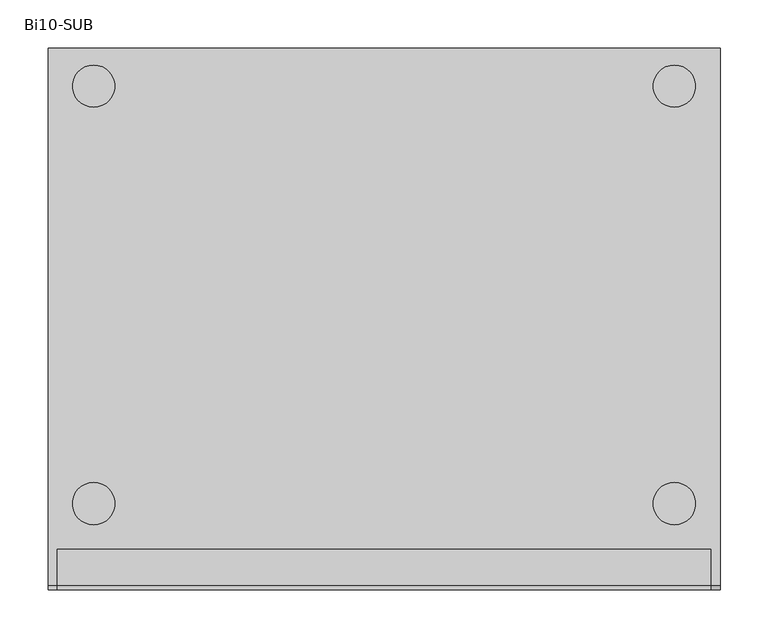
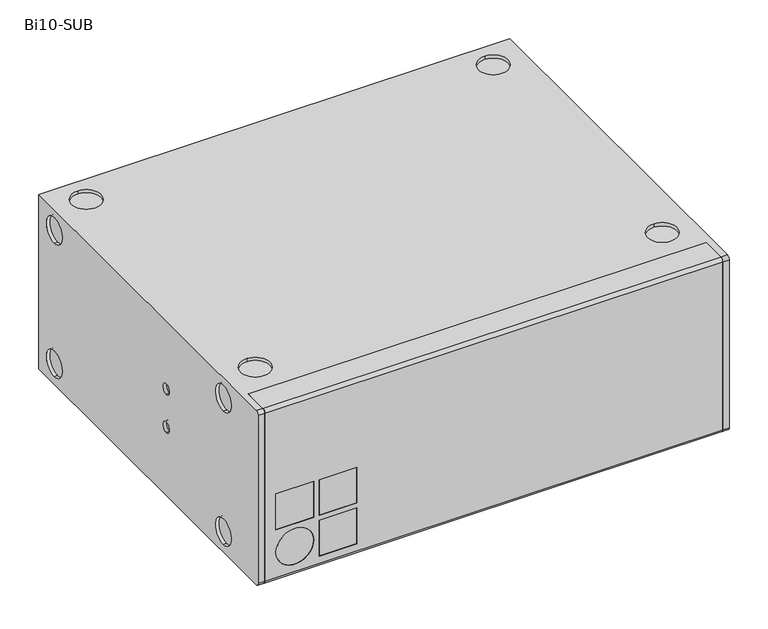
"""IFC4 building model written with IfcOpenShell, lengths in millimetres: proxy geometry, d&b Bi10-SUB : Bi10-SUB."""

from ifc_helpers import new_model, si_unit, point, frame, frame_2d, origin, origin_with_axes, place, context, project, spatial, polyline, circle_curve, trimmed, segment, composite_curve, outline, extrude, source, transform, mapped, element, save
from ifc_brep_helpers import plane_surface, cylinder_surface, revolved_surface, advanced_brep


def bi10_sub_41919346(model_context):
    return source(origin(), model_context, "Body", "SolidModel", [
        advanced_brep(
        [(2840.2, -60.7494027, 10.0), (2840.2, -55.7494027, 5.0), (2840.2, -18.2494027, 5.0), (2840.2, -18.2494027, 10.0), (2840.2, -55.7494027, 10.0), (2840.2, -55.7494027, 274.0), (2840.2, -18.2494027, 274.0), (2840.2, -18.2494027, 279.0), (2840.2, -55.7494027, 279.0), (2840.2, -60.7494027, 274.0), (2159.8, -60.7494027, 10.0), (2159.8, -60.7494027, 274.0), (2159.8, -55.7494027, 279.0), (2159.8, -18.2494027, 279.0), (2159.8, -18.2494027, 274.0), (2159.8, -55.7494027, 274.0), (2159.8, -55.7494027, 10.0), (2159.8, -18.2494027, 10.0), (2159.8, -18.2494027, 5.0), (2159.8, -55.7494027, 5.0), (2232.3, -55.7494027, 85.5), (2232.3, -55.7494027, 141.5), (2176.3, -55.7494027, 141.5), (2176.3, -55.7494027, 85.5), (2296.3, -55.7494027, 85.5), (2296.3, -55.7494027, 141.5), (2240.3, -55.7494027, 141.5), (2240.3, -55.7494027, 85.5), (2296.3, -55.7494027, 21.5), (2296.3, -55.7494027, 77.5), (2240.3, -55.7494027, 77.5), (2240.3, -55.7494027, 21.5), (2176.3, -55.7494027, 49.5), (2232.3, -55.7494027, 49.5), (2232.3, -60.7494027, 141.5), (2232.3, -60.7494027, 85.5), (2176.3, -60.7494027, 85.5), (2176.3, -60.7494027, 141.5), (2296.3, -60.7494027, 141.5), (2296.3, -60.7494027, 85.5), (2240.3, -60.7494027, 85.5), (2240.3, -60.7494027, 141.5), (2296.3, -60.7494027, 77.5), (2296.3, -60.7494027, 21.5), (2240.3, -60.7494027, 21.5), (2240.3, -60.7494027, 77.5), (2232.3, -60.7494027, 49.5), (2176.3, -60.7494027, 49.5)],
        [
            (0, 1, circle_curve(frame((2840.2, -55.7494027, 10.0), z_axis=(1.0, 0.0, 0.0), x_axis=(0.0, 1.0, 0.0)), 5.0)),
            (1, 2),
            (2, 3),
            (3, 4),
            (4, 5),
            (5, 6),
            (6, 7),
            (7, 8),
            (8, 9, circle_curve(frame((2840.2, -55.7494027, 274.0), z_axis=(1.0, 0.0, 0.0), x_axis=(0.0, 1.0, 0.0)), 5.0)),
            (9, 0),
            (10, 11),
            (11, 12, circle_curve(frame((2159.8, -55.7494027, 274.0), z_axis=(-1.0, 0.0, 0.0), x_axis=(0.0, 1.0, 0.0)), 5.0)),
            (12, 13),
            (13, 14),
            (14, 15),
            (15, 16),
            (16, 17),
            (17, 18),
            (18, 19),
            (19, 10, circle_curve(frame((2159.8, -55.7494027, 10.0), z_axis=(-1.0, 0.0, 0.0), x_axis=(0.0, 1.0, 0.0)), 5.0)),
            (4, 16),
            (15, 5),
            (20, 21),
            (21, 22),
            (22, 23),
            (23, 20),
            (24, 25),
            (25, 26),
            (26, 27),
            (27, 24),
            (28, 29),
            (29, 30),
            (30, 31),
            (31, 28),
            (32, 33, circle_curve(frame((2204.3, -55.7494027, 49.5), z_axis=(0.0, -1.0, 0.0), x_axis=(-1.0, 0.0, 0.0)), 28.0)),
            (33, 32, circle_curve(frame((2204.3, -55.7494027, 49.5), z_axis=(0.0, -1.0, 0.0), x_axis=(-1.0, 0.0, 0.0)), 28.0)),
            (14, 6),
            (9, 11),
            (10, 0),
            (34, 35),
            (35, 36),
            (36, 37),
            (37, 34),
            (38, 39),
            (39, 40),
            (40, 41),
            (41, 38),
            (42, 43),
            (43, 44),
            (44, 45),
            (45, 42),
            (46, 47, circle_curve(frame((2204.3, -60.7494027, 49.5), z_axis=(0.0, 1.0, 0.0), x_axis=(-1.0, 0.0, 0.0)), 28.0)),
            (47, 46, circle_curve(frame((2204.3, -60.7494027, 49.5), z_axis=(0.0, 1.0, 0.0), x_axis=(-1.0, 0.0, 0.0)), 28.0)),
            (34, 21),
            (20, 35),
            (23, 36),
            (37, 22),
            (38, 25),
            (24, 39),
            (27, 40),
            (26, 41),
            (42, 29),
            (28, 43),
            (31, 44),
            (30, 45),
            (46, 33),
            (32, 47),
            (3, 17),
            (13, 7),
            (12, 8),
            (19, 1),
            (18, 2),
        ],
        [
            plane_surface(frame((2840.2, -50.7494027, 10.0), z_axis=(1.0, 0.0, 0.0), x_axis=(0.0, 0.0, 1.0))),
            plane_surface(frame((2159.8, -50.7494027, 10.0), z_axis=(-1.0, 0.0, 0.0), x_axis=(0.0, 0.0, -1.0))),
            plane_surface(frame((2840.2, -55.7494027, 10.0), z_axis=(0.0, 1.0, 0.0), x_axis=(-1.0, 0.0, 0.0))),
            plane_surface(frame((2840.2, -55.7494027, 274.0), z_axis=(0.0, 0.0, -1.0), x_axis=(-1.0, 0.0, 0.0))),
            plane_surface(frame((2840.2, -60.7494027, 274.0), z_axis=(0.0, -1.0, 0.0), x_axis=(-1.0, 0.0, 0.0))),
            plane_surface(frame((2232.3, -50.7494027, 141.5), z_axis=(-1.0, 0.0, 0.0), x_axis=(0.0, -1.0, 0.0))),
            plane_surface(frame((2232.3, -50.7494027, 85.5), z_axis=(0.0, 0.0, 1.0), x_axis=(0.0, -1.0, 0.0))),
            plane_surface(frame((2176.3, -50.7494027, 141.5), z_axis=(0.0, 0.0, -1.0), x_axis=(0.0, -1.0, 0.0))),
            plane_surface(frame((2296.3, -50.7494027, 141.5), z_axis=(-1.0, 0.0, 0.0), x_axis=(0.0, -1.0, 0.0))),
            plane_surface(frame((2296.3, -50.7494027, 85.5), z_axis=(0.0, 0.0, 1.0), x_axis=(0.0, -1.0, 0.0))),
            plane_surface(frame((2240.3, -50.7494027, 85.5), z_axis=(1.0, 0.0, 0.0), x_axis=(0.0, -1.0, 0.0))),
            plane_surface(frame((2240.3, -50.7494027, 141.5), z_axis=(0.0, 0.0, -1.0), x_axis=(0.0, -1.0, 0.0))),
            plane_surface(frame((2296.3, -50.7494027, 77.5), z_axis=(-1.0, 0.0, 0.0), x_axis=(0.0, -1.0, 0.0))),
            plane_surface(frame((2296.3, -50.7494027, 21.5), z_axis=(0.0, 0.0, 1.0), x_axis=(0.0, -1.0, 0.0))),
            plane_surface(frame((2240.3, -50.7494027, 21.5), z_axis=(1.0, 0.0, 0.0), x_axis=(0.0, -1.0, 0.0))),
            plane_surface(frame((2240.3, -50.7494027, 77.5), z_axis=(0.0, 0.0, -1.0), x_axis=(0.0, -1.0, 0.0))),
            revolved_surface(polyline([(2176.3, -55.7494027, 49.5), (2176.3, -60.7494027, 49.5)]), (2204.3, -60.7494027, 49.5), (0.0, 1.0, 0.0)),
            plane_surface(frame((2840.2, -18.2494027, 10.0), z_axis=(0.0, 0.0, 1.0), x_axis=(-1.0, 0.0, 0.0))),
            plane_surface(frame((2840.2, -18.2494027, 274.0), z_axis=(0.0, 1.0, 0.0), x_axis=(-1.0, 0.0, 0.0))),
            plane_surface(frame((2840.2, -18.2494027, 279.0), z_axis=(0.0, 0.0, 1.0), x_axis=(-1.0, 0.0, 0.0))),
            cylinder_surface(frame((2159.8, -55.7494027, 10.0), z_axis=(1.0, 0.0, 0.0), x_axis=(0.0, 1.0, 0.0)), 5.0),
            plane_surface(frame((2840.2, -55.7494027, 5.0), z_axis=(0.0, 0.0, -1.0), x_axis=(-1.0, 0.0, 0.0))),
            plane_surface(frame((2840.2, -18.2494027, 5.0), z_axis=(0.0, 1.0, 0.0), x_axis=(-1.0, 0.0, 0.0))),
            cylinder_surface(frame((2159.8, -55.7494027, 274.0), z_axis=(1.0, 0.0, 0.0), x_axis=(0.0, 1.0, 0.0)), 5.0),
            plane_surface(frame((2176.3, -50.7494027, 85.5), z_axis=(1.0, 0.0, 0.0), x_axis=(0.0, -1.0, 0.0))),
        ],
        [
            (0, [[1, 2, 3, 4, 5, 6, 7, 8, 9, 10]]),
            (1, [[11, 12, 13, 14, 15, 16, 17, 18, 19, 20]]),
            (2, [[-5, 21, -16, 22], [23, 24, 25, 26], [27, 28, 29, 30], [31, 32, 33, 34], [35, 36]]),
            (3, [[-6, -22, -15, 37]]),
            (4, [[-10, 38, -11, 39], [40, 41, 42, 43], [44, 45, 46, 47], [48, 49, 50, 51], [52, 53]]),
            (5, [[54, -23, 55, -40]]),
            (6, [[-55, -26, 56, -41]]),
            (7, [[-54, -43, 57, -24]]),
            (8, [[58, -27, 59, -44]]),
            (9, [[-59, -30, 60, -45]]),
            (10, [[-60, -29, 61, -46]]),
            (11, [[-58, -47, -61, -28]]),
            (12, [[62, -31, 63, -48]]),
            (13, [[-63, -34, 64, -49]]),
            (14, [[-64, -33, 65, -50]]),
            (15, [[-62, -51, -65, -32]]),
            (16, [[66, -35, 67, -52]]),
            (16, [[-66, -53, -67, -36]]),
            (17, [[-4, 68, -17, -21]]),
            (18, [[-7, -37, -14, 69]]),
            (19, [[-8, -69, -13, 70]]),
            (20, [[-1, -39, -20, 71]]),
            (21, [[-2, -71, -19, 72]]),
            (22, [[-3, -72, -18, -68]]),
            (23, [[-9, -70, -12, -38]]),
            (24, [[-57, -42, -56, -25]]),
        ],
    ),
        advanced_brep(
        [(2850.0, 504.2505973, 279.0), (2150.0, 504.2505973, 279.0), (2150.0, -55.7494027, 279.0), (2159.8, -55.7494027, 279.0), (2159.8, -18.2494027, 279.0), (2840.2, -18.2494027, 279.0), (2840.2, -55.7494027, 279.0), (2850.0, -55.7494027, 279.0), (2197.5, 7.2505973, 279.0), (2197.5, 51.2505973, 279.0), (2197.5, 442.4754449, 279.0), (2197.5, 486.4754449, 279.0), (2802.5, 7.2505973, 279.0), (2802.5, 51.2505973, 279.0), (2802.5, 442.4754449, 279.0), (2802.5, 486.4754449, 279.0), (2150.0, 504.2505973, 5.0), (2150.0, -55.7494027, 5.0), (2150.0, -60.7494027, 10.0), (2150.0, -60.7494027, 274.0), (2150.0, 464.2505973, 227.0), (2150.0, 464.2505973, 267.0), (2150.0, 464.2505973, 17.0), (2150.0, 464.2505973, 57.0), (2150.0, 29.0257497, 17.0), (2150.0, 29.0257497, 57.0), (2150.0, 29.0257497, 227.0), (2150.0, 29.0257497, 267.0), (2150.0, 176.2505973, 163.9), (2150.0, 176.2505973, 180.1), (2150.0, 176.2505973, 103.9), (2150.0, 176.2505973, 120.1), (2159.8, -18.2494027, 5.0), (2840.2, -18.2494027, 5.0), (2159.8, -60.7494027, 10.0), (2159.8, -60.7494027, 274.0), (2188.0, 499.2505973, 33.5), (2178.0, 499.2505973, 43.5), (2178.0, 499.2505973, 144.5), (2188.0, 499.2505973, 154.5), (2232.0, 499.2505973, 154.5), (2242.0, 499.2505973, 144.5), (2242.0, 499.2505973, 43.5), (2232.0, 499.2505973, 33.5), (2232.0, 499.2505973, 43.5), (2232.0, 499.2505973, 144.5), (2188.0, 499.2505973, 144.5), (2188.0, 499.2505973, 43.5), (2159.8, -55.7494027, 5.0), (2850.0, 504.2505973, 5.0), (2850.0, -55.7494027, 5.0), (2840.2, -55.7494027, 5.0), (2178.0, 504.2505973, 43.5), (2188.0, 504.2505973, 33.5), (2232.0, 504.2505973, 33.5), (2242.0, 504.2505973, 43.5), (2242.0, 504.2505973, 144.5), (2232.0, 504.2505973, 154.5), (2188.0, 504.2505973, 154.5), (2178.0, 504.2505973, 144.5), (2197.5, 51.2505973, 274.0), (2197.5, 7.2505973, 274.0), (2197.5, 486.4754449, 274.0), (2197.5, 442.4754449, 274.0), (2840.2, -60.7494027, 10.0), (2840.2, -60.7494027, 274.0), (2850.0, -60.7494027, 274.0), (2850.0, -60.7494027, 10.0), (2850.0, 176.2505973, 163.9), (2850.0, 176.2505973, 180.1), (2850.0, 176.2505973, 103.9), (2850.0, 176.2505973, 120.1), (2802.5, 7.2505973, 274.0), (2802.5, 51.2505973, 274.0), (2802.5, 442.4754449, 274.0), (2802.5, 486.4754449, 274.0), (2155.0, 464.2505973, 227.0), (2155.0, 464.2505973, 267.0), (2155.0, 464.2505973, 17.0), (2155.0, 464.2505973, 57.0), (2155.0, 29.0257497, 17.0), (2155.0, 29.0257497, 57.0), (2155.0, 29.0257497, 227.0), (2155.0, 29.0257497, 267.0), (2155.0, 176.2505973, 180.1), (2155.0, 176.2505973, 163.9), (2155.0, 176.2505973, 120.1), (2155.0, 176.2505973, 103.9), (2845.0, 176.2505973, 180.1), (2845.0, 176.2505973, 163.9), (2845.0, 176.2505973, 120.1), (2845.0, 176.2505973, 103.9), (2232.0, 482.3421979, 43.5), (2232.0, 447.6966201, 78.1455778), (2232.0, 465.476234, 144.5), (2188.0, 465.476234, 144.5), (2188.0, 447.6966201, 78.1455778), (2188.0, 482.3421979, 43.5)],
        [
            (0, 1),
            (1, 2),
            (2, 3),
            (3, 4),
            (4, 5),
            (5, 6),
            (6, 7),
            (7, 0),
            (8, 9, circle_curve(frame((2197.5, 29.2505973, 279.0), z_axis=(0.0, 0.0, -1.0), x_axis=(0.0, 1.0, 0.0)), 22.0)),
            (9, 8, circle_curve(frame((2197.5, 29.2505973, 279.0), z_axis=(0.0, 0.0, -1.0), x_axis=(0.0, 1.0, 0.0)), 22.0)),
            (10, 11, circle_curve(frame((2197.5, 464.4754449, 279.0), z_axis=(0.0, 0.0, -1.0), x_axis=(0.0, 1.0, 0.0)), 22.0)),
            (11, 10, circle_curve(frame((2197.5, 464.4754449, 279.0), z_axis=(0.0, 0.0, -1.0), x_axis=(0.0, 1.0, 0.0)), 22.0)),
            (12, 13, circle_curve(frame((2802.5, 29.2505973, 279.0), z_axis=(0.0, 0.0, -1.0), x_axis=(0.0, 1.0, 0.0)), 22.0)),
            (13, 12, circle_curve(frame((2802.5, 29.2505973, 279.0), z_axis=(0.0, 0.0, -1.0), x_axis=(0.0, 1.0, 0.0)), 22.0)),
            (14, 15, circle_curve(frame((2802.5, 464.4754449, 279.0), z_axis=(0.0, 0.0, -1.0), x_axis=(0.0, 1.0, 0.0)), 22.0)),
            (15, 14, circle_curve(frame((2802.5, 464.4754449, 279.0), z_axis=(0.0, 0.0, -1.0), x_axis=(0.0, 1.0, 0.0)), 22.0)),
            (1, 16),
            (16, 17),
            (17, 18, circle_curve(frame((2150.0, -55.7494027, 10.0), z_axis=(-1.0, 0.0, 0.0), x_axis=(0.0, 0.0, 1.0)), 5.0)),
            (18, 19),
            (19, 2, circle_curve(frame((2150.0, -55.7494027, 274.0), z_axis=(-1.0, 0.0, 0.0), x_axis=(0.0, 0.0, 1.0)), 5.0)),
            (20, 21, circle_curve(frame((2150.0, 464.2505973, 247.0), z_axis=(1.0, 0.0, 0.0), x_axis=(0.0, 0.0, 1.0)), 20.0)),
            (21, 20, circle_curve(frame((2150.0, 464.2505973, 247.0), z_axis=(1.0, 0.0, 0.0), x_axis=(0.0, 0.0, 1.0)), 20.0)),
            (22, 23, circle_curve(frame((2150.0, 464.2505973, 37.0), z_axis=(1.0, 0.0, 0.0), x_axis=(0.0, 0.0, 1.0)), 20.0)),
            (23, 22, circle_curve(frame((2150.0, 464.2505973, 37.0), z_axis=(1.0, 0.0, 0.0), x_axis=(0.0, 0.0, 1.0)), 20.0)),
            (24, 25, circle_curve(frame((2150.0, 29.0257497, 37.0), z_axis=(1.0, 0.0, 0.0), x_axis=(0.0, 0.0, 1.0)), 20.0)),
            (25, 24, circle_curve(frame((2150.0, 29.0257497, 37.0), z_axis=(1.0, 0.0, 0.0), x_axis=(0.0, 0.0, 1.0)), 20.0)),
            (26, 27, circle_curve(frame((2150.0, 29.0257497, 247.0), z_axis=(1.0, 0.0, 0.0), x_axis=(0.0, 0.0, 1.0)), 20.0)),
            (27, 26, circle_curve(frame((2150.0, 29.0257497, 247.0), z_axis=(1.0, 0.0, 0.0), x_axis=(0.0, 0.0, 1.0)), 20.0)),
            (28, 29, circle_curve(frame((2150.0, 176.2505973, 172.0), z_axis=(1.0, 0.0, 0.0), x_axis=(0.0, 0.0, 1.0)), 8.1)),
            (29, 28, circle_curve(frame((2150.0, 176.2505973, 172.0), z_axis=(1.0, 0.0, 0.0), x_axis=(0.0, 0.0, 1.0)), 8.1)),
            (30, 31, circle_curve(frame((2150.0, 176.2505973, 112.0), z_axis=(1.0, 0.0, 0.0), x_axis=(0.0, 0.0, 1.0)), 8.1)),
            (31, 30, circle_curve(frame((2150.0, 176.2505973, 112.0), z_axis=(1.0, 0.0, 0.0), x_axis=(0.0, 0.0, 1.0)), 8.1)),
            (4, 32),
            (32, 33),
            (33, 5),
            (18, 34),
            (34, 35),
            (35, 19),
            (36, 37, circle_curve(frame((2188.0, 499.2505973, 43.5), z_axis=(0.0, 1.0, 0.0), x_axis=(-1.0, 0.0, 0.0)), 10.0)),
            (37, 38),
            (38, 39, circle_curve(frame((2188.0, 499.2505973, 144.5), z_axis=(0.0, 1.0, 0.0), x_axis=(-1.0, 0.0, 0.0)), 10.0)),
            (39, 40),
            (40, 41, circle_curve(frame((2232.0, 499.2505973, 144.5), z_axis=(0.0, 1.0, 0.0), x_axis=(-1.0, 0.0, 0.0)), 10.0)),
            (41, 42),
            (42, 43, circle_curve(frame((2232.0, 499.2505973, 43.5), z_axis=(0.0, 1.0, 0.0), x_axis=(-1.0, 0.0, 0.0)), 10.0)),
            (43, 36),
            (44, 45),
            (45, 46),
            (46, 47),
            (47, 44),
            (32, 48),
            (48, 17),
            (16, 49),
            (49, 50),
            (50, 51),
            (51, 33),
            (0, 49),
            (52, 53, circle_curve(frame((2188.0, 504.2505973, 43.5), z_axis=(0.0, -1.0, 0.0), x_axis=(-1.0, 0.0, 0.0)), 10.0)),
            (53, 54),
            (54, 55, circle_curve(frame((2232.0, 504.2505973, 43.5), z_axis=(0.0, -1.0, 0.0), x_axis=(-1.0, 0.0, 0.0)), 10.0)),
            (55, 56),
            (56, 57, circle_curve(frame((2232.0, 504.2505973, 144.5), z_axis=(0.0, -1.0, 0.0), x_axis=(-1.0, 0.0, 0.0)), 10.0)),
            (57, 58),
            (58, 59, circle_curve(frame((2188.0, 504.2505973, 144.5), z_axis=(0.0, -1.0, 0.0), x_axis=(-1.0, 0.0, 0.0)), 10.0)),
            (59, 52),
            (60, 61, circle_curve(frame((2197.5, 29.2505973, 274.0), z_axis=(0.0, 0.0, 1.0), x_axis=(0.0, 1.0, 0.0)), 22.0)),
            (61, 60, circle_curve(frame((2197.5, 29.2505973, 274.0), z_axis=(0.0, 0.0, 1.0), x_axis=(0.0, 1.0, 0.0)), 22.0)),
            (62, 63, circle_curve(frame((2197.5, 464.4754449, 274.0), z_axis=(0.0, 0.0, 1.0), x_axis=(0.0, 1.0, 0.0)), 22.0)),
            (63, 62, circle_curve(frame((2197.5, 464.4754449, 274.0), z_axis=(0.0, 0.0, 1.0), x_axis=(0.0, 1.0, 0.0)), 22.0)),
            (8, 61),
            (60, 9),
            (10, 63),
            (62, 11),
            (3, 35, circle_curve(frame((2159.8, -55.7494027, 274.0), z_axis=(1.0, 0.0, 0.0), x_axis=(0.0, 0.0, 1.0)), 5.0)),
            (34, 48, circle_curve(frame((2159.8, -55.7494027, 10.0), z_axis=(1.0, 0.0, 0.0), x_axis=(0.0, 0.0, 1.0)), 5.0)),
            (51, 64, circle_curve(frame((2840.2, -55.7494027, 10.0), z_axis=(-1.0, 0.0, 0.0), x_axis=(0.0, 0.0, 1.0)), 5.0)),
            (64, 65),
            (65, 6, circle_curve(frame((2840.2, -55.7494027, 274.0), z_axis=(-1.0, 0.0, 0.0), x_axis=(0.0, 0.0, 1.0)), 5.0)),
            (7, 66, circle_curve(frame((2850.0, -55.7494027, 274.0), z_axis=(1.0, 0.0, 0.0), x_axis=(0.0, 0.0, 1.0)), 5.0)),
            (66, 67),
            (67, 50, circle_curve(frame((2850.0, -55.7494027, 10.0), z_axis=(1.0, 0.0, 0.0), x_axis=(0.0, 0.0, 1.0)), 5.0)),
            (68, 69, circle_curve(frame((2850.0, 176.2505973, 172.0), z_axis=(-1.0, 0.0, 0.0), x_axis=(0.0, 0.0, 1.0)), 8.1)),
            (69, 68, circle_curve(frame((2850.0, 176.2505973, 172.0), z_axis=(-1.0, 0.0, 0.0), x_axis=(0.0, 0.0, 1.0)), 8.1)),
            (70, 71, circle_curve(frame((2850.0, 176.2505973, 112.0), z_axis=(-1.0, 0.0, 0.0), x_axis=(0.0, 0.0, 1.0)), 8.1)),
            (71, 70, circle_curve(frame((2850.0, 176.2505973, 112.0), z_axis=(-1.0, 0.0, 0.0), x_axis=(0.0, 0.0, 1.0)), 8.1)),
            (12, 72),
            (72, 73, circle_curve(frame((2802.5, 29.2505973, 274.0), z_axis=(0.0, 0.0, -1.0), x_axis=(0.0, 1.0, 0.0)), 22.0)),
            (73, 13),
            (73, 72, circle_curve(frame((2802.5, 29.2505973, 274.0), z_axis=(0.0, 0.0, -1.0), x_axis=(0.0, 1.0, 0.0)), 22.0)),
            (14, 74),
            (74, 75, circle_curve(frame((2802.5, 464.4754449, 274.0), z_axis=(0.0, 0.0, -1.0), x_axis=(0.0, 1.0, 0.0)), 22.0)),
            (75, 15),
            (75, 74, circle_curve(frame((2802.5, 464.4754449, 274.0), z_axis=(0.0, 0.0, -1.0), x_axis=(0.0, 1.0, 0.0)), 22.0)),
            (66, 65),
            (64, 67),
            (76, 77, circle_curve(frame((2155.0, 464.2505973, 247.0), z_axis=(-1.0, 0.0, 0.0), x_axis=(0.0, 0.0, 1.0)), 20.0)),
            (77, 76, circle_curve(frame((2155.0, 464.2505973, 247.0), z_axis=(-1.0, 0.0, 0.0), x_axis=(0.0, 0.0, 1.0)), 20.0)),
            (78, 79, circle_curve(frame((2155.0, 464.2505973, 37.0), z_axis=(-1.0, 0.0, 0.0), x_axis=(0.0, 0.0, 1.0)), 20.0)),
            (79, 78, circle_curve(frame((2155.0, 464.2505973, 37.0), z_axis=(-1.0, 0.0, 0.0), x_axis=(0.0, 0.0, 1.0)), 20.0)),
            (80, 81, circle_curve(frame((2155.0, 29.0257497, 37.0), z_axis=(-1.0, 0.0, 0.0), x_axis=(0.0, 0.0, 1.0)), 20.0)),
            (81, 80, circle_curve(frame((2155.0, 29.0257497, 37.0), z_axis=(-1.0, 0.0, 0.0), x_axis=(0.0, 0.0, 1.0)), 20.0)),
            (82, 83, circle_curve(frame((2155.0, 29.0257497, 247.0), z_axis=(-1.0, 0.0, 0.0), x_axis=(0.0, 0.0, 1.0)), 20.0)),
            (83, 82, circle_curve(frame((2155.0, 29.0257497, 247.0), z_axis=(-1.0, 0.0, 0.0), x_axis=(0.0, 0.0, 1.0)), 20.0)),
            (77, 21),
            (20, 76),
            (79, 23),
            (22, 78),
            (81, 25),
            (24, 80),
            (83, 27),
            (26, 82),
            (29, 84),
            (84, 85, circle_curve(frame((2155.0, 176.2505973, 172.0), z_axis=(1.0, 0.0, 0.0), x_axis=(0.0, 0.0, 1.0)), 8.1)),
            (85, 28),
            (85, 84, circle_curve(frame((2155.0, 176.2505973, 172.0), z_axis=(1.0, 0.0, 0.0), x_axis=(0.0, 0.0, 1.0)), 8.1)),
            (31, 86),
            (86, 87, circle_curve(frame((2155.0, 176.2505973, 112.0), z_axis=(1.0, 0.0, 0.0), x_axis=(0.0, 0.0, 1.0)), 8.1)),
            (87, 30),
            (87, 86, circle_curve(frame((2155.0, 176.2505973, 112.0), z_axis=(1.0, 0.0, 0.0), x_axis=(0.0, 0.0, 1.0)), 8.1)),
            (69, 88),
            (88, 89, circle_curve(frame((2845.0, 176.2505973, 172.0), z_axis=(-1.0, 0.0, 0.0), x_axis=(0.0, 0.0, 1.0)), 8.1)),
            (89, 68),
            (89, 88, circle_curve(frame((2845.0, 176.2505973, 172.0), z_axis=(-1.0, 0.0, 0.0), x_axis=(0.0, 0.0, 1.0)), 8.1)),
            (71, 90),
            (90, 91, circle_curve(frame((2845.0, 176.2505973, 112.0), z_axis=(-1.0, 0.0, 0.0), x_axis=(0.0, 0.0, 1.0)), 8.1)),
            (91, 70),
            (91, 90, circle_curve(frame((2845.0, 176.2505973, 112.0), z_axis=(-1.0, 0.0, 0.0), x_axis=(0.0, 0.0, 1.0)), 8.1)),
            (36, 53),
            (52, 37),
            (59, 38),
            (58, 39),
            (57, 40),
            (56, 41),
            (55, 42),
            (54, 43),
            (92, 93),
            (93, 94),
            (94, 45),
            (44, 92),
            (95, 96),
            (96, 97),
            (97, 47),
            (46, 95),
            (94, 95),
            (93, 96),
            (92, 97),
        ],
        [
            plane_surface(frame((2150.0, 504.2505973, 279.0), z_axis=(0.0, 0.0, 1.0), x_axis=(-1.0, 0.0, 0.0))),
            plane_surface(frame((2150.0, -18.2494027, 5.0), z_axis=(-1.0, 0.0, 0.0), x_axis=(0.0, 0.0, 1.0))),
            plane_surface(frame((2220.0, -18.2494027, 274.0), z_axis=(0.0, -1.0, 0.0), x_axis=(-1.0, 0.0, 0.0))),
            plane_surface(frame((2159.8, -60.7494027, 274.0), z_axis=(0.0, -1.0, 0.0), x_axis=(-1.0, 0.0, 0.0))),
            plane_surface(frame((2178.0, 499.2505973, 43.5), z_axis=(0.0, 1.0, 0.0), x_axis=(0.0, 0.0, -1.0))),
            plane_surface(frame((2220.0, -18.2494027, 5.0), z_axis=(0.0, 0.0, -1.0), x_axis=(-1.0, 0.0, 0.0))),
            plane_surface(frame((2220.0, 504.2505973, 5.0), z_axis=(0.0, 1.0, 0.0), x_axis=(-1.0, 0.0, 0.0))),
            plane_surface(frame((2220.0, 504.2505973, 274.0), z_axis=(0.0, 0.0, 1.0), x_axis=(-1.0, 0.0, 0.0))),
            revolved_surface(polyline([(2197.5, 51.250597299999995, 274.0), (2197.5, 51.250597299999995, 279.0)]), (2197.5, 29.2505973, 279.0), (0.0, 0.0, -1.0)),
            revolved_surface(polyline([(2197.5, 486.4754449, 274.0), (2197.5, 486.4754449, 279.0)]), (2197.5, 464.4754449, 279.0), (0.0, 0.0, -1.0)),
            plane_surface(frame((2159.8, -55.7494027, 279.0), z_axis=(1.0, 0.0, 0.0), x_axis=(0.0, 0.0, -1.0))),
            plane_surface(frame((2840.2, -18.2494027, 279.0), z_axis=(-1.0, 0.0, 0.0), x_axis=(0.0, 0.0, -1.0))),
            plane_surface(frame((2850.0, -55.7494027, 279.0), z_axis=(1.0, 0.0, 0.0), x_axis=(0.0, 0.0, -1.0))),
            revolved_surface(polyline([(2802.5, 51.250597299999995, 274.0), (2802.5, 51.250597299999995, 279.0)]), (2802.5, 29.2505973, 279.0), (0.0, 0.0, -1.0)),
            revolved_surface(polyline([(2802.5, 486.4754449, 274.0), (2802.5, 486.4754449, 279.0)]), (2802.5, 464.4754449, 279.0), (0.0, 0.0, -1.0)),
            cylinder_surface(frame((2150.0, -55.7494027, 274.0), z_axis=(1.0, 0.0, 0.0), x_axis=(0.0, 0.0, 1.0)), 5.0),
            cylinder_surface(frame((2150.0, -55.7494027, 10.0), z_axis=(1.0, 0.0, 0.0), x_axis=(0.0, 0.0, 1.0)), 5.0),
            plane_surface(frame((2840.2, -60.7494027, 10.0), z_axis=(0.0, -1.0, 0.0), x_axis=(1.0, 0.0, 0.0))),
            cylinder_surface(frame((2850.0, -55.7494027, 274.0), z_axis=(-1.0, 0.0, 0.0), x_axis=(0.0, 0.0, 1.0)), 5.0),
            cylinder_surface(frame((2850.0, -55.7494027, 10.0), z_axis=(-1.0, 0.0, 0.0), x_axis=(0.0, 0.0, 1.0)), 5.0),
            plane_surface(frame((2780.0, -18.2494027, 274.0), z_axis=(0.0, 0.0, 1.0), x_axis=(1.0, 0.0, 0.0))),
            plane_surface(frame((2155.0, 464.2505973, 267.0), z_axis=(-1.0, 0.0, 0.0), x_axis=(0.0, -1.0, 0.0))),
            revolved_surface(polyline([(2155.0, 464.2505973, 267.0), (2150.0, 464.2505973, 267.0)]), (2150.0, 464.2505973, 247.0), (1.0, 0.0, 0.0)),
            revolved_surface(polyline([(2155.0, 464.2505973, 57.0), (2150.0, 464.2505973, 57.0)]), (2150.0, 464.2505973, 37.0), (1.0, 0.0, 0.0)),
            revolved_surface(polyline([(2155.0, 29.0257497, 57.0), (2150.0, 29.0257497, 57.0)]), (2150.0, 29.0257497, 37.0), (1.0, 0.0, 0.0)),
            revolved_surface(polyline([(2155.0, 29.0257497, 267.0), (2150.0, 29.0257497, 267.0)]), (2150.0, 29.0257497, 247.0), (1.0, 0.0, 0.0)),
            revolved_surface(polyline([(2150.0, 176.2505973, 180.1), (2155.0, 176.2505973, 180.1)]), (2150.0, 176.2505973, 172.0), (-1.0, 0.0, 0.0)),
            revolved_surface(polyline([(2150.0, 176.2505973, 120.1), (2155.0, 176.2505973, 120.1)]), (2150.0, 176.2505973, 112.0), (-1.0, 0.0, 0.0)),
            revolved_surface(polyline([(2850.0, 176.2505973, 180.1), (2845.0, 176.2505973, 180.1)]), (2850.0, 176.2505973, 172.0), (1.0, 0.0, 0.0)),
            revolved_surface(polyline([(2850.0, 176.2505973, 120.1), (2845.0, 176.2505973, 120.1)]), (2850.0, 176.2505973, 112.0), (1.0, 0.0, 0.0)),
            plane_surface(frame((2845.0, 176.2505973, 180.1), z_axis=(1.0, 0.0, 0.0), x_axis=(0.0, -1.0, 0.0))),
            plane_surface(frame((2155.0, 176.2505973, 180.1), z_axis=(-1.0, 0.0, 0.0), x_axis=(0.0, 1.0, 0.0))),
            revolved_surface(polyline([(2178.0, 504.2505973, 43.5), (2178.0, 499.2505973, 43.5)]), (2188.0, 499.2505973, 43.5), (0.0, 1.0, 0.0)),
            plane_surface(frame((2178.0, 504.2505973, 43.5), z_axis=(1.0, 0.0, 0.0), x_axis=(0.0, -1.0, 0.0))),
            revolved_surface(polyline([(2178.0, 504.2505973, 144.5), (2178.0, 499.2505973, 144.5)]), (2188.0, 499.2505973, 144.5), (0.0, 1.0, 0.0)),
            plane_surface(frame((2188.0, 504.2505973, 154.5), z_axis=(0.0, 0.0, -1.0), x_axis=(0.0, -1.0, 0.0))),
            revolved_surface(polyline([(2222.0, 504.2505973, 144.5), (2222.0, 499.2505973, 144.5)]), (2232.0, 499.2505973, 144.5), (0.0, 1.0, 0.0)),
            plane_surface(frame((2242.0, 504.2505973, 144.5), z_axis=(-1.0, 0.0, 0.0), x_axis=(0.0, -1.0, 0.0))),
            revolved_surface(polyline([(2222.0, 504.2505973, 43.5), (2222.0, 499.2505973, 43.5)]), (2232.0, 499.2505973, 43.5), (0.0, 1.0, 0.0)),
            plane_surface(frame((2232.0, 504.2505973, 33.5), z_axis=(0.0, 0.0, 1.0), x_axis=(0.0, -1.0, 0.0))),
            plane_surface(frame((2232.0, 463.9174196, 144.5), z_axis=(-1.0, 0.0, 0.0), x_axis=(0.0, -1.0, 0.0))),
            plane_surface(frame((2188.0, 463.9174196, 144.5), z_axis=(1.0, 0.0, 0.0), x_axis=(0.0, 1.0, 0.0))),
            plane_surface(frame((2232.0, 504.2505973, 144.5), z_axis=(0.0, 0.0, -1.0), x_axis=(-1.0, 0.0, 0.0))),
            plane_surface(frame((2232.0, 465.476234, 144.5), z_axis=(0.0, 0.965925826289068, -0.25881904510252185), x_axis=(-1.0, 0.0, 0.0))),
            plane_surface(frame((2232.0, 447.6966201, 78.1455778), z_axis=(0.0, 0.7071067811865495, 0.7071067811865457), x_axis=(-1.0, 0.0, 0.0))),
            plane_surface(frame((2232.0, 482.3421979, 43.5), z_axis=(0.0, 0.0, 1.0), x_axis=(-1.0, 0.0, 0.0))),
        ],
        [
            (0, [[1, 2, 3, 4, 5, 6, 7, 8], [9, 10], [11, 12], [13, 14], [15, 16]]),
            (1, [[-2, 17, 18, 19, 20, 21], [22, 23], [24, 25], [26, 27], [28, 29], [30, 31], [32, 33]]),
            (2, [[-5, 34, 35, 36]]),
            (3, [[-20, 37, 38, 39]]),
            (4, [[40, 41, 42, 43, 44, 45, 46, 47], [48, 49, 50, 51]]),
            (5, [[52, 53, -18, 54, 55, 56, 57, -35]]),
            (6, [[-1, 58, -54, -17], [59, 60, 61, 62, 63, 64, 65, 66]]),
            (7, [[67, 68]]),
            (7, [[69, 70]]),
            (8, [[-9, 71, -67, 72]]),
            (8, [[-10, -72, -68, -71]]),
            (9, [[-11, 73, -69, 74]]),
            (9, [[-12, -74, -70, -73]]),
            (10, [[-4, 75, -38, 76, -52, -34]]),
            (11, [[-6, -36, -57, 77, 78, 79]]),
            (12, [[-8, 80, 81, 82, -55, -58], [83, 84], [85, 86]]),
            (13, [[-13, 87, 88, 89]]),
            (13, [[-14, -89, 90, -87]]),
            (14, [[-15, 91, 92, 93]]),
            (14, [[-16, -93, 94, -91]]),
            (15, [[-21, -39, -75, -3]]),
            (16, [[-19, -53, -76, -37]]),
            (17, [[-81, 95, -78, 96]]),
            (18, [[-80, -7, -79, -95]]),
            (19, [[-82, -96, -77, -56]]),
            (20, [[-88, -90]]),
            (20, [[-92, -94]]),
            (21, [[97, 98]]),
            (21, [[99, 100]]),
            (21, [[101, 102]]),
            (21, [[103, 104]]),
            (22, [[-98, 105, -22, 106]]),
            (22, [[-97, -106, -23, -105]]),
            (23, [[-100, 107, -24, 108]]),
            (23, [[-99, -108, -25, -107]]),
            (24, [[-102, 109, -26, 110]]),
            (24, [[-101, -110, -27, -109]]),
            (25, [[-104, 111, -28, 112]]),
            (25, [[-103, -112, -29, -111]]),
            (26, [[-31, 113, 114, 115]]),
            (26, [[-30, -115, 116, -113]]),
            (27, [[-33, 117, 118, 119]]),
            (27, [[-32, -119, 120, -117]]),
            (28, [[-84, 121, 122, 123]]),
            (28, [[-83, -123, 124, -121]]),
            (29, [[-86, 125, 126, 127]]),
            (29, [[-85, -127, 128, -125]]),
            (30, [[-122, -124]]),
            (30, [[-126, -128]]),
            (31, [[-114, -116]]),
            (31, [[-118, -120]]),
            (32, [[-40, 129, -59, 130]]),
            (33, [[-41, -130, -66, 131]]),
            (34, [[-42, -131, -65, 132]]),
            (35, [[-43, -132, -64, 133]]),
            (36, [[-44, -133, -63, 134]]),
            (37, [[-45, -134, -62, 135]]),
            (38, [[-46, -135, -61, 136]]),
            (39, [[-47, -136, -60, -129]]),
            (40, [[137, 138, 139, -48, 140]]),
            (41, [[141, 142, 143, -50, 144]]),
            (42, [[145, -144, -49, -139]]),
            (43, [[-138, 146, -141, -145]]),
            (44, [[-137, 147, -142, -146]]),
            (45, [[-147, -140, -51, -143]]),
        ],
    ),
        extrude(outline(composite_curve([segment(trimmed(circle_curve(frame_2d((2197.5, 464.4754449)), 22.0), [point((2219.5, 464.4754449))], [point((2175.5, 464.4754449))], False, "CARTESIAN"), True, "CONTINUOUS"), segment(trimmed(circle_curve(frame_2d((2197.5, 464.4754449)), 22.0), [point((2175.5, 464.4754449))], [point((2219.5, 464.4754449))], False, "CARTESIAN"), True, "CONTINUOUS")], self_intersect=False)), origin_with_axes(), (0.0, 0.0, 1.0), 5.0),
        extrude(outline(composite_curve([segment(trimmed(circle_curve(frame_2d((2802.5, 464.4754449)), 22.0), [point((2824.5, 464.4754449))], [point((2780.5, 464.4754449))], False, "CARTESIAN"), True, "CONTINUOUS"), segment(trimmed(circle_curve(frame_2d((2802.5, 464.4754449)), 22.0), [point((2780.5, 464.4754449))], [point((2824.5, 464.4754449))], False, "CARTESIAN"), True, "CONTINUOUS")], self_intersect=False)), origin_with_axes(), (0.0, 0.0, 1.0), 5.0),
        extrude(outline(composite_curve([segment(trimmed(circle_curve(frame_2d((2197.5, 29.2505973)), 22.0), [point((2219.5, 29.2505973))], [point((2175.5, 29.2505973))], False, "CARTESIAN"), True, "CONTINUOUS"), segment(trimmed(circle_curve(frame_2d((2197.5, 29.2505973)), 22.0), [point((2175.5, 29.2505973))], [point((2219.5, 29.2505973))], False, "CARTESIAN"), True, "CONTINUOUS")], self_intersect=False)), origin_with_axes(), (0.0, 0.0, 1.0), 5.0),
        extrude(outline(composite_curve([segment(trimmed(circle_curve(frame_2d((2802.5, 29.2505973)), 22.0), [point((2824.5, 29.2505973))], [point((2780.5, 29.2505973))], False, "CARTESIAN"), True, "CONTINUOUS"), segment(trimmed(circle_curve(frame_2d((2802.5, 29.2505973)), 22.0), [point((2780.5, 29.2505973))], [point((2824.5, 29.2505973))], False, "CARTESIAN"), True, "CONTINUOUS")], self_intersect=False)), origin_with_axes(), (0.0, 0.0, 1.0), 5.0),
        extrude(outline(polyline([(2176.3, -55.7494027), (2232.3, -55.7494027), (2232.3, -60.7494027), (2176.3, -60.7494027), (2176.3, -55.7494027)])), frame((0.0, 0.0, 85.5), z_axis=(0.0, 0.0, 1.0), x_axis=(1.0, 0.0, 0.0)), (0.0, 0.0, 1.0), 56.0),
        extrude(outline(polyline([(2240.3, -55.7494027), (2296.3, -55.7494027), (2296.3, -60.7494027), (2240.3, -60.7494027), (2240.3, -55.7494027)])), frame((0.0, 0.0, 85.5), z_axis=(0.0, 0.0, 1.0), x_axis=(1.0, 0.0, 0.0)), (0.0, 0.0, 1.0), 56.0),
        extrude(outline(polyline([(2240.3, -55.7494027), (2296.3, -55.7494027), (2296.3, -60.7494027), (2240.3, -60.7494027), (2240.3, -55.7494027)])), frame((0.0, 0.0, 21.5), z_axis=(0.0, 0.0, 1.0), x_axis=(1.0, 0.0, 0.0)), (0.0, 0.0, 1.0), 56.0),
        extrude(outline(composite_curve([segment(trimmed(circle_curve(frame_2d((49.5, 2204.3)), 28.0), [point((49.5, 2232.3))], [point((49.5, 2176.3))], False, "CARTESIAN"), True, "CONTINUOUS"), segment(trimmed(circle_curve(frame_2d((49.5, 2204.3)), 28.0), [point((49.5, 2176.3))], [point((49.5, 2232.3))], False, "CARTESIAN"), True, "CONTINUOUS")], self_intersect=False)), frame((0.0, -60.7494027, 0.0), z_axis=(0.0, 1.0, 0.0), x_axis=(0.0, 0.0, 1.0)), (0.0, 0.0, 1.0), 5.0),
        extrude(outline(polyline([(0.0, -29.0373054), (0.0, 0.0), (20.0, 0.0), (20.0, -29.0373054), (0.0, -29.0373054)])), frame((2200.0, 477.0385985, 75.4597993), z_axis=(0.0, 0.2588190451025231, 0.9659258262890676), x_axis=(1.0, 0.0, 0.0)), (0.0, 0.0, 1.0), 44.3212681),
        extrude(outline(composite_curve([segment(trimmed(circle_curve(frame_2d((43.5, 2232.0)), 10.0), [point((33.5, 2232.0))], [point((43.5, 2242.0))], False, "CARTESIAN"), True, "CONTINUOUS"), segment(polyline([(43.5, 2242.0), (144.5, 2242.0)]), True, "CONTINUOUS"), segment(trimmed(circle_curve(frame_2d((144.5, 2232.0)), 10.0), [point((144.5, 2242.0))], [point((154.5, 2232.0))], False, "CARTESIAN"), True, "CONTINUOUS"), segment(polyline([(154.5, 2232.0), (154.5, 2188.0)]), True, "CONTINUOUS"), segment(trimmed(circle_curve(frame_2d((144.5, 2188.0)), 10.0), [point((154.5, 2188.0))], [point((144.5, 2178.0))], False, "CARTESIAN"), True, "CONTINUOUS"), segment(polyline([(144.5, 2178.0), (43.5, 2178.0)]), True, "CONTINUOUS"), segment(trimmed(circle_curve(frame_2d((43.5, 2188.0)), 10.0), [point((43.5, 2178.0))], [point((33.5, 2188.0))], False, "CARTESIAN"), True, "CONTINUOUS"), segment(polyline([(33.5, 2188.0), (33.5, 2232.0)]), True, "CONTINUOUS")], self_intersect=False), holes=[composite_curve([segment(polyline([(134.5, 2232.0), (53.5, 2232.0)]), True, "CONTINUOUS"), segment(trimmed(circle_curve(frame_2d((53.5, 2222.0)), 10.0), [point((53.5, 2232.0))], [point((43.5, 2222.0))], True, "CARTESIAN"), True, "CONTINUOUS"), segment(polyline([(43.5, 2222.0), (43.5, 2198.0)]), True, "CONTINUOUS"), segment(trimmed(circle_curve(frame_2d((53.5, 2198.0)), 10.0), [point((43.5, 2198.0))], [point((53.5, 2188.0))], True, "CARTESIAN"), True, "CONTINUOUS"), segment(polyline([(53.5, 2188.0), (134.5, 2188.0)]), True, "CONTINUOUS"), segment(trimmed(circle_curve(frame_2d((134.5, 2198.0)), 10.0), [point((134.5, 2188.0))], [point((144.5, 2198.0))], True, "CARTESIAN"), True, "CONTINUOUS"), segment(polyline([(144.5, 2198.0), (144.5, 2222.0)]), True, "CONTINUOUS"), segment(trimmed(circle_curve(frame_2d((134.5, 2222.0)), 10.0), [point((144.5, 2222.0))], [point((134.5, 2232.0))], True, "CARTESIAN"), True, "CONTINUOUS")], self_intersect=False)]), frame((0.0, 499.2505973, 0.0), z_axis=(0.0, 1.0, 0.0), x_axis=(0.0, 0.0, 1.0)), (0.0, 0.0, 1.0), 5.0),
    ])


if __name__ == "__main__":
    model = new_model("IFC4")
    model_context = context("Model", 3, world=origin())
    ifc_project = project(units=[si_unit("LENGTHUNIT", "METRE", prefix="MILLI")], contexts=[model_context])
    site = spatial("IfcSite", under=ifc_project)
    building = spatial("IfcBuilding", under=site)
    placement = place(None, origin())
    bi10_sub_shape = bi10_sub_41919346(model_context)
    element("IfcBuildingElementProxy", 1, Name="d&b Bi10-SUB : Bi10-SUB", ObjectType="d&b Bi10-SUB : Bi10-SUB", at=placement, inside=building, context=model_context, shape_type="MappedRepresentation", body=[
        mapped(bi10_sub_shape, transform((0.0, 0.0, 0.0), x_axis=(1.0, 0.0, 0.0), y_axis=(0.0, 1.0, 0.0), z_axis=(0.0, 0.0, 1.0))),
    ])
    save(model, "model.ifc")
